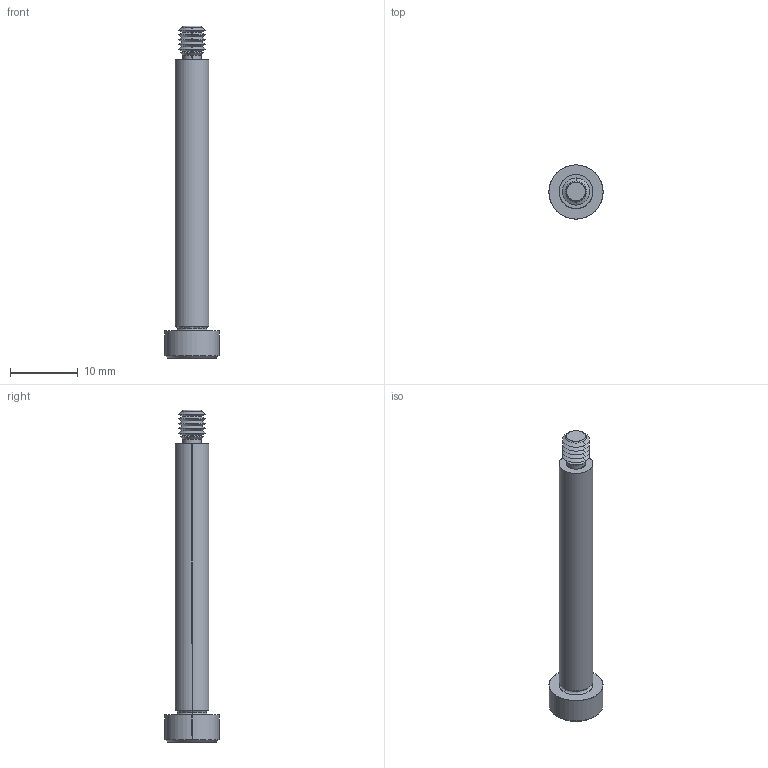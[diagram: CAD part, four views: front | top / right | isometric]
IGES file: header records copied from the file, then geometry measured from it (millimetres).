
Start section: SolidWorks IGES file using analytic representation for surfaces
Global section: file name: C:\Users\IanO\Documents\Temp Folder\GENERAL\SCREW REVISION\P0130_v2\P0130.T5_v2_20220106_IGES\P0130.050-040-T5.igs; native system: SolidWorks 2019; preprocessor: SolidWorks 2019; author: IanO; date: 220106.221824; units: millimetre
Bounding box: 8 x 8 x 49 mm (x, y, z)
Surface area: 944.3 mm2 (no closed solid volume)
Topology: 0 solids, 0 shells, 64 faces, 504 edges, 502 vertices
Faces by surface type: revolution 44, bspline 20
